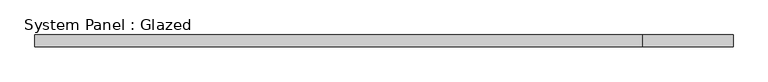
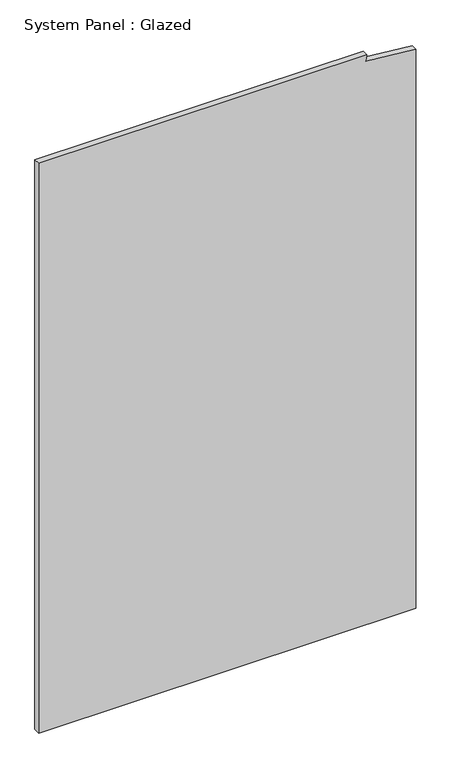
"""IFC4 building model written with IfcOpenShell, lengths in millimetres: plate geometry, System Panel : Glazed."""

from ifc_helpers import new_model, si_unit, frame, origin, place, context, project, spatial, polyline, outline, extrude, source, transform, mapped, element, save


def system_panel_glazed_885844dd(model_context):
    return source(origin(), model_context, "Body", "SweptSolid", [
        extrude(outline(polyline([(0.0, -735.8695652), (0.0, 735.8695652), (2305.5337245, 735.8695652), (2325.2508557, 539.7762456), (2350.0, 544.7785089), (2350.0, -735.8695652), (0.0, -735.8695652)])), frame((0.0, 24.5, 0.0), z_axis=(0.0, 1.0, 0.0), x_axis=(0.0, 0.0, 1.0)), (0.0, 0.0, 1.0), 25.0),
    ])


if __name__ == "__main__":
    model = new_model("IFC4")
    model_context = context("Model", 3, world=origin())
    ifc_project = project(units=[si_unit("LENGTHUNIT", "METRE", prefix="MILLI")], contexts=[model_context])
    site = spatial("IfcSite", under=ifc_project)
    building = spatial("IfcBuilding", under=site)
    placement = place(None, origin())
    system_panel_glazed_shape = system_panel_glazed_885844dd(model_context)
    element("IfcPlate", 1, ObjectType="System Panel : Glazed", at=placement, inside=building, context=model_context, shape_type="MappedRepresentation", body=[
        mapped(system_panel_glazed_shape, transform((0.0, 0.0, 0.0), x_axis=(1.0, 0.0, 0.0), y_axis=(0.0, 1.0, 0.0), z_axis=(0.0, 0.0, 1.0))),
    ])
    save(model, "model.ifc")
